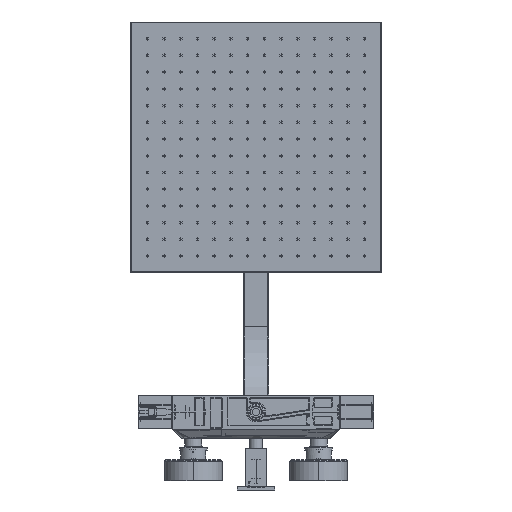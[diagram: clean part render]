
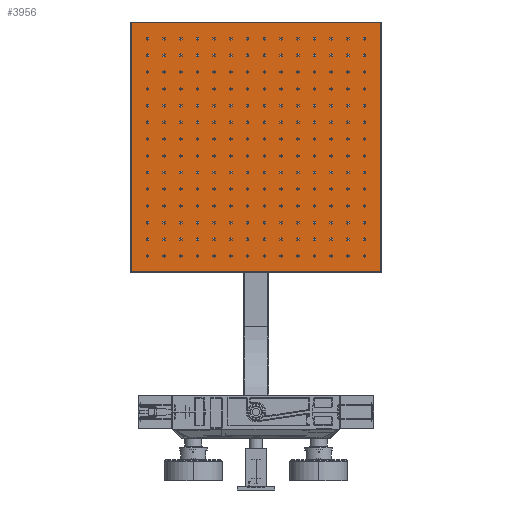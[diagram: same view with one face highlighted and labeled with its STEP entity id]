
A CAD part, front view. The second image highlights one B-rep face of the part: STEP entity #3956.
In plain terms, the highlighted planar face has unit normal (0, -1, 0).
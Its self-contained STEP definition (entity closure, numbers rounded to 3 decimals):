
#3956=ADVANCED_FACE('',(#8298),#68504,.T.);
#8298=FACE_OUTER_BOUND('',#12849,.T.);
#12849=EDGE_LOOP('',(#27576,#27577,#27578,#27579));
#27576=ORIENTED_EDGE('',*,*,#41091,.F.);
#27577=ORIENTED_EDGE('',*,*,#41090,.F.);
#27578=ORIENTED_EDGE('',*,*,#41087,.F.);
#27579=ORIENTED_EDGE('',*,*,#41085,.F.);
#41085=EDGE_CURVE('',#62598,#62597,#57017,.T.);
#41087=EDGE_CURVE('',#62597,#62599,#57018,.T.);
#41090=EDGE_CURVE('',#62599,#62600,#57019,.T.);
#41091=EDGE_CURVE('',#62600,#62598,#57020,.T.);
#57017=B_SPLINE_CURVE_WITH_KNOTS('',1,(#155774,#155775),.UNSPECIFIED.,.F.,
 .F.,(2,2),(-298.,0.),.UNSPECIFIED.);
#57018=B_SPLINE_CURVE_WITH_KNOTS('',1,(#155779,#155780),.UNSPECIFIED.,.F.,
 .F.,(2,2),(-298.,0.),.UNSPECIFIED.);
#57019=B_SPLINE_CURVE_WITH_KNOTS('',1,(#155787,#155788),.UNSPECIFIED.,.F.,
 .F.,(2,2),(0.,298.),.UNSPECIFIED.);
#57020=B_SPLINE_CURVE_WITH_KNOTS('',1,(#155789,#155790),.UNSPECIFIED.,.F.,
 .F.,(2,2),(0.,298.),.UNSPECIFIED.);
#62597=VERTEX_POINT('',#155551);
#62598=VERTEX_POINT('',#155552);
#62599=VERTEX_POINT('',#155553);
#62600=VERTEX_POINT('',#155554);
#68504=PLANE('',#73555);
#73555=AXIS2_PLACEMENT_3D('',#155248,#83640,$);
#83640=DIRECTION('',(0.,-1.,0.));
#155248=CARTESIAN_POINT('',(-17.931,94.2,49.581));
#155551=CARTESIAN_POINT('',(-14.9,94.2,46.55));
#155552=CARTESIAN_POINT('',(-14.9,94.2,16.75));
#155553=CARTESIAN_POINT('',(14.9,94.2,46.55));
#155554=CARTESIAN_POINT('',(14.9,94.2,16.75));
#155774=CARTESIAN_POINT('',(-14.9,94.2,16.75));
#155775=CARTESIAN_POINT('',(-14.9,94.2,46.55));
#155779=CARTESIAN_POINT('',(-14.9,94.2,46.55));
#155780=CARTESIAN_POINT('',(14.9,94.2,46.55));
#155787=CARTESIAN_POINT('',(14.9,94.2,46.55));
#155788=CARTESIAN_POINT('',(14.9,94.2,16.75));
#155789=CARTESIAN_POINT('',(14.9,94.2,16.75));
#155790=CARTESIAN_POINT('',(-14.9,94.2,16.75));
